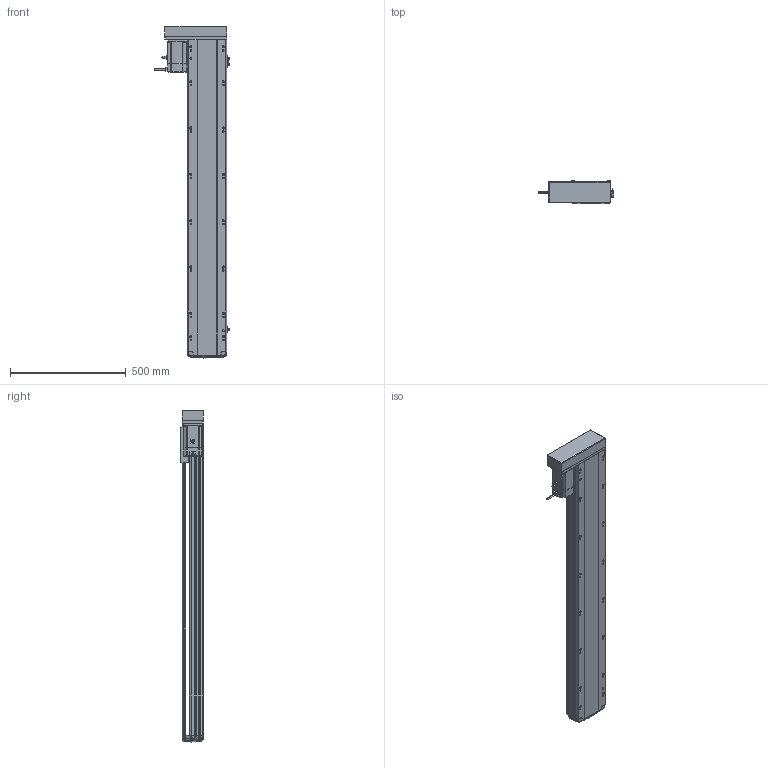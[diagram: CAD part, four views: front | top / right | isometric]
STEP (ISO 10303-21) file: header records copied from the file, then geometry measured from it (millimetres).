
FILE_DESCRIPTION (( 'STEP AP214' ), '1' );
FILE_NAME ('RTH17-XX-1150-R-M75-C4.STEP', '2025-10-24T10:19:43', ( '' ), ( '' ), 'SwSTEP 2.0', 'SolidWorks 2018', '' );
FILE_SCHEMA (( 'AUTOMOTIVE_DESIGN' ));
Length unit declared in the file: millimetre
Products named in the file (10): N_RTH17-GY-001P^RTH17-XX-XX-R-M75-C4（方程式）; N_RTH17-L-008-P75电机安装板左转折^RTH17-XX-XX-R-M75-C4（方程式）; N_RTH17-L-018盖子^RTH17-XX-XX-R-M75-C4（方程式）; RTH17-XX-1150-R-M75-C4; N_RTH17-M-011底座^RTH17-XX-XX-R-M75-C4（方程式）; N_OMRON EE-SX672 換覜ん^RTH17-XX-XX-R-M75-C4ㄗ源最宒ㄘ; N_M75^RTH17-XX-XX-R-M75-C4（方程式）; N_RTH17-M-007上盖^RTH17-XX-XX-R-M75-C4（方程式）; N_RTH17-E-004丝杆螺母连接座^RTH17-XX-XX-R-M75-C4（方程式）; N_RTH-L-012 感应片(外置)^RTH17-XX-XX-R-M75-C4（方程式）
Assembly tree (11 placements, depth 2):
  RTH17-XX-1150-R-M75-C4
    N_RTH17-M-011底座^RTH17-XX-XX-R-M75-C4（方程式）
    N_RTH17-M-007上盖^RTH17-XX-XX-R-M75-C4（方程式）
    N_M75^RTH17-XX-XX-R-M75-C4（方程式）
    N_OMRON EE-SX672 換覜ん^RTH17-XX-XX-R-M75-C4ㄗ源最宒ㄘ  x3
    N_RTH-L-012 感应片(外置)^RTH17-XX-XX-R-M75-C4（方程式）
    N_RTH17-L-008-P75电机安装板左转折^RTH17-XX-XX-R-M75-C4（方程式）
    N_RTH17-L-018盖子^RTH17-XX-XX-R-M75-C4（方程式）
    N_RTH17-E-004丝杆螺母连接座^RTH17-XX-XX-R-M75-C4（方程式）
    N_RTH17-GY-001P^RTH17-XX-XX-R-M75-C4（方程式）
Bounding box: 326.2 x 97 x 1432.99 mm (x, y, z)
Volume: 12295742 mm3; surface area: 1540178.8 mm2
Topology: 13 solids, 15 shells, 1789 faces, 4943 edges, 3202 vertices
Faces by surface type: plane 837, cylinder 538, bspline 377, cone 28, torus 9
Entity records: 52717 total; most frequent: CARTESIAN_POINT 21003, ORIENTED_EDGE 6910, DIRECTION 5743, EDGE_CURVE 3459, VERTEX_POINT 2238, AXIS2_PLACEMENT_3D 1945, LINE 1853, VECTOR 1853
